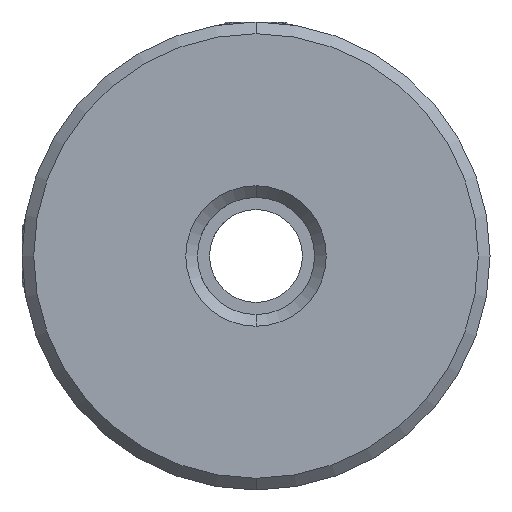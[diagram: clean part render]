
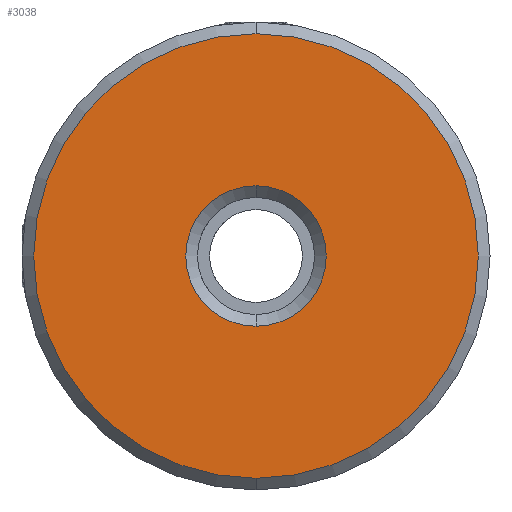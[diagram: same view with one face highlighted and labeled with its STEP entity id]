
A CAD part, front view. The second image highlights one B-rep face of the part: STEP entity #3038.
In plain terms, the highlighted planar face has unit normal (0, -1, 0).
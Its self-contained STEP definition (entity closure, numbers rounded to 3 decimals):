
#173 = AXIS2_PLACEMENT_3D ( 'NONE', #181, #1897, #2797 ) ;
#181 = CARTESIAN_POINT ( 'NONE',  ( -10.188, -0.277, 0.046 ) ) ;
#187 = DIRECTION ( 'NONE',  ( 0., 0., 1. ) ) ;
#327 = EDGE_LOOP ( 'NONE', ( #2855, #2525 ) ) ;
#442 = AXIS2_PLACEMENT_3D ( 'NONE', #2632, #2598, #2301 ) ;
#529 = VERTEX_POINT ( 'NONE', #823 ) ;
#629 = VERTEX_POINT ( 'NONE', #1473 ) ;
#640 = DIRECTION ( 'NONE',  ( 0., 0., 1. ) ) ;
#725 = ORIENTED_EDGE ( 'NONE', *, *, #1873, .T. ) ;
#823 = CARTESIAN_POINT ( 'NONE',  ( -10.188, -0.277, -4.754 ) ) ;
#846 = CARTESIAN_POINT ( 'NONE',  ( -10.188, -0.277, 4.846 ) ) ;
#852 = EDGE_CURVE ( 'NONE', #529, #922, #3082, .T. ) ;
#922 = VERTEX_POINT ( 'NONE', #846 ) ;
#1011 = PLANE ( 'NONE',  #1549 ) ;
#1054 = ORIENTED_EDGE ( 'NONE', *, *, #2386, .T. ) ;
#1335 = CARTESIAN_POINT ( 'NONE',  ( -10.188, -0.277, 15.246 ) ) ;
#1473 = CARTESIAN_POINT ( 'NONE',  ( -10.188, -0.277, -15.154 ) ) ;
#1540 = DIRECTION ( 'NONE',  ( 0., 1., 0. ) ) ;
#1549 = AXIS2_PLACEMENT_3D ( 'NONE', #3236, #1540, #640 ) ;
#1575 = FACE_OUTER_BOUND ( 'NONE', #2971, .T. ) ;
#1589 = CIRCLE ( 'NONE', #3474, 15.2 ) ;
#1643 = CARTESIAN_POINT ( 'NONE',  ( -10.188, -0.277, 0.046 ) ) ;
#1673 = CIRCLE ( 'NONE', #1792, 4.8 ) ;
#1792 = AXIS2_PLACEMENT_3D ( 'NONE', #2994, #2693, #2447 ) ;
#1831 = VERTEX_POINT ( 'NONE', #1335 ) ;
#1873 = EDGE_CURVE ( 'NONE', #629, #1831, #1589, .T. ) ;
#1897 = DIRECTION ( 'NONE',  ( 0., 1., 0. ) ) ;
#2301 = DIRECTION ( 'NONE',  ( 0., 0., 1. ) ) ;
#2386 = EDGE_CURVE ( 'NONE', #1831, #629, #2692, .T. ) ;
#2447 = DIRECTION ( 'NONE',  ( 0., 0., 1. ) ) ;
#2525 = ORIENTED_EDGE ( 'NONE', *, *, #2897, .T. ) ;
#2598 = DIRECTION ( 'NONE',  ( 0., -1., 0. ) ) ;
#2632 = CARTESIAN_POINT ( 'NONE',  ( -10.188, -0.277, 0.046 ) ) ;
#2669 = FACE_BOUND ( 'NONE', #327, .T. ) ;
#2692 = CIRCLE ( 'NONE', #442, 15.2 ) ;
#2693 = DIRECTION ( 'NONE',  ( 0., 1., 0. ) ) ;
#2797 = DIRECTION ( 'NONE',  ( 0., 0., 1. ) ) ;
#2855 = ORIENTED_EDGE ( 'NONE', *, *, #852, .T. ) ;
#2897 = EDGE_CURVE ( 'NONE', #922, #529, #1673, .T. ) ;
#2971 = EDGE_LOOP ( 'NONE', ( #1054, #725 ) ) ;
#2994 = CARTESIAN_POINT ( 'NONE',  ( -10.188, -0.277, 0.046 ) ) ;
#3038 = ADVANCED_FACE ( 'NONE', ( #1575, #2669 ), #1011, .F. ) ;
#3082 = CIRCLE ( 'NONE', #173, 4.8 ) ;
#3146 = DIRECTION ( 'NONE',  ( 0., -1., 0. ) ) ;
#3236 = CARTESIAN_POINT ( 'NONE',  ( -10.188, -0.277, 0.046 ) ) ;
#3474 = AXIS2_PLACEMENT_3D ( 'NONE', #1643, #3146, #187 ) ;
